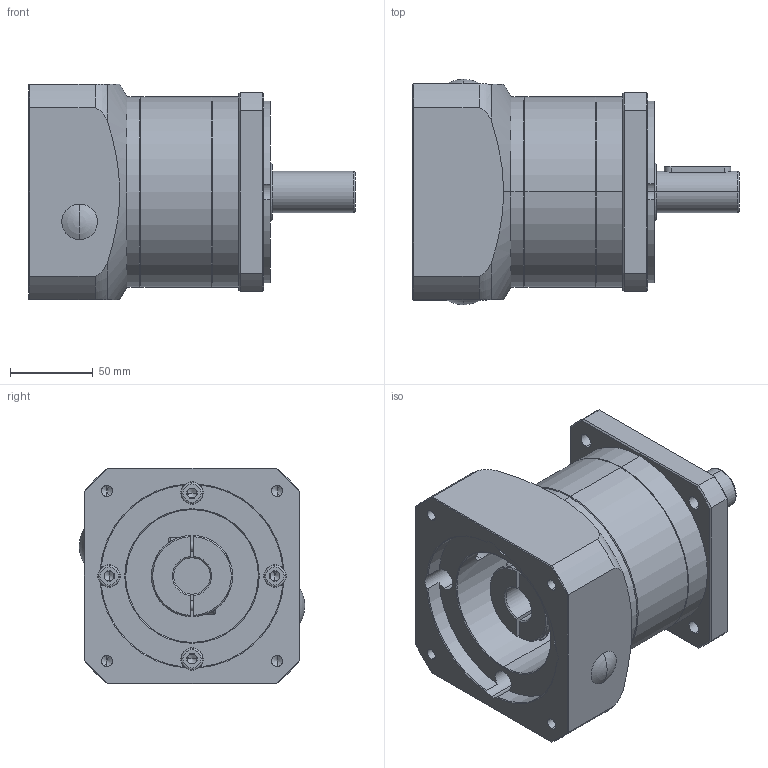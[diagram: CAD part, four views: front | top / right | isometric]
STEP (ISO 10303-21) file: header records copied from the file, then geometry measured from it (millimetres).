
FILE_DESCRIPTION (( 'STEP AP203' ), '1' );
FILE_NAME ('PF120L1-110-22-58-M8-145.STEP', '2022-11-14T01:48:58', ( 'PC' ), ( 'Microsoft' ), 'SwSTEP 2.0', 'SolidWorks 2016', '' );
FILE_SCHEMA (( 'CONFIG_CONTROL_DESIGN' ));
Length unit declared in the file: millimetre
Products named in the file (8): hexagon socket head cap screws gb_GB_FASTENER_SCREWS_HSHCS M6X20-N; PF120L1-110-22-58-M8-145; PF120黑裔15; hexagon socket head cap screws gb_GB_FASTENER_SCREWS_HSHCS M8X25-N; PF120怀堤傷裔-源; PF120一级齿圈-外形; PF120输入端盖-外形110-M8-145; PF120薊粣ん-俋倛22
Assembly tree (16 placements, depth 2):
  PF120L1-110-22-58-M8-145
    PF120怀堤傷裔-源
    PF120一级齿圈-外形
    PF120输入端盖-外形110-M8-145
    PF120薊粣ん-俋倛22
    hexagon socket head cap screws gb_GB_FASTENER_SCREWS_HSHCS M6X20-N  x2
    PF120黑裔15  x2
    hexagon socket head cap screws gb_GB_FASTENER_SCREWS_HSHCS M8X25-N  x8
Bounding box: 196.5 x 136 x 130 mm (x, y, z)
Volume: 1331380 mm3; surface area: 200693.8 mm2
Topology: 17 solids, 17 shells, 525 faces, 1248 edges, 763 vertices
Faces by surface type: plane 234, cylinder 168, cone 89, torus 34
Entity records: 10759 total; most frequent: CARTESIAN_POINT 2246, DIRECTION 1677, ORIENTED_EDGE 1470, EDGE_CURVE 735, AXIS2_PLACEMENT_3D 689, VERTEX_POINT 468, EDGE_LOOP 367, CIRCLE 365
